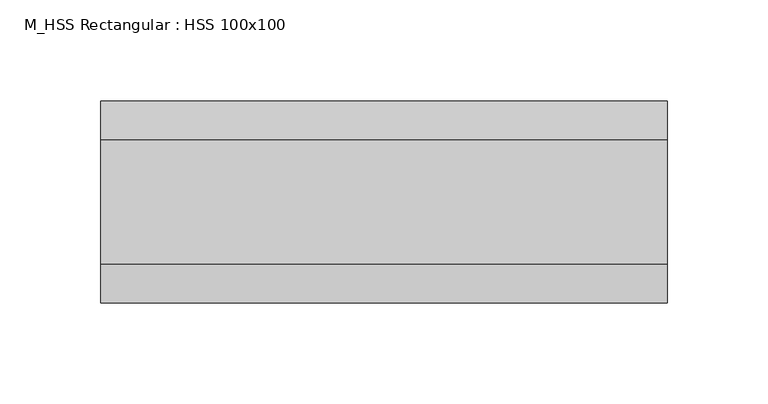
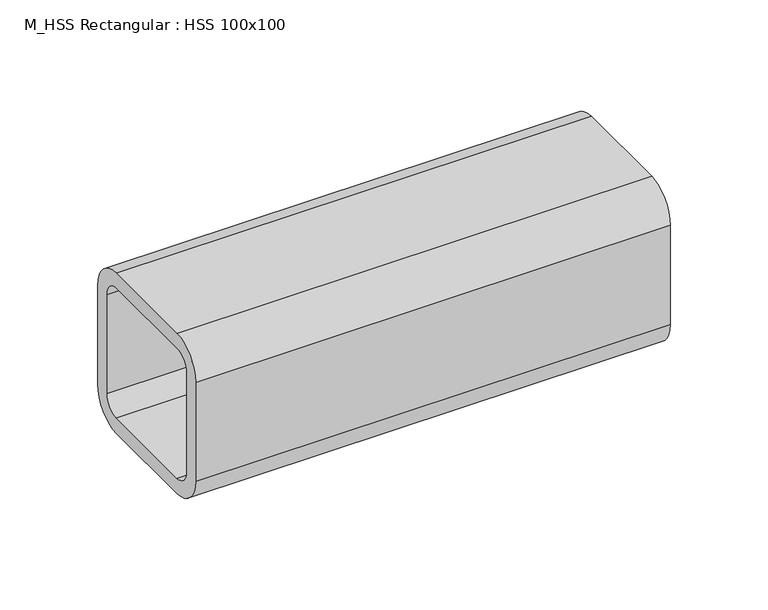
"""IFC4 building model written with IfcOpenShell, lengths in millimetres: beam geometry, M_HSS Rectangular : HSS 100x100."""

from ifc_helpers import new_model, si_unit, point, frame, frame_2d, origin, place, context, project, spatial, polyline, circle_curve, trimmed, segment, composite_curve, outline, extrude, source, transform, mapped, element, save


def m_hss_rectangular_hss_100x100_1dc630a9(model_context):
    return source(origin(), model_context, "Body", "SweptSolid", [
        extrude(outline(composite_curve([segment(polyline([(50.0, 30.94), (50.0, -30.94)]), True, "CONTINUOUS"), segment(trimmed(circle_curve(frame_2d((30.94, -30.94)), 19.06), [point((50.0, -30.94))], [point((30.94, -50.0))], False, "CARTESIAN"), True, "CONTINUOUS"), segment(polyline([(30.94, -50.0), (-30.94, -50.0)]), True, "CONTINUOUS"), segment(trimmed(circle_curve(frame_2d((-30.94, -30.94)), 19.06), [point((-30.94, -50.0))], [point((-50.0, -30.94))], False, "CARTESIAN"), True, "CONTINUOUS"), segment(polyline([(-50.0, -30.94), (-50.0, 30.94)]), True, "CONTINUOUS"), segment(trimmed(circle_curve(frame_2d((-30.94, 30.94)), 19.06), [point((-50.0, 30.94))], [point((-30.94, 50.0))], False, "CARTESIAN"), True, "CONTINUOUS"), segment(polyline([(-30.94, 50.0), (30.94, 50.0)]), True, "CONTINUOUS"), segment(trimmed(circle_curve(frame_2d((30.94, 30.94)), 19.06), [point((30.94, 50.0))], [point((50.0, 30.94))], False, "CARTESIAN"), True, "CONTINUOUS")], self_intersect=False), holes=[composite_curve([segment(trimmed(circle_curve(frame_2d((-30.94, 30.94)), 9.53), [point((-30.94, 40.47))], [point((-40.47, 30.94))], True, "CARTESIAN"), True, "CONTINUOUS"), segment(polyline([(-40.47, 30.94), (-40.47, -30.94)]), True, "CONTINUOUS"), segment(trimmed(circle_curve(frame_2d((-30.94, -30.94)), 9.53), [point((-40.47, -30.94))], [point((-30.94, -40.47))], True, "CARTESIAN"), True, "CONTINUOUS"), segment(polyline([(-30.94, -40.47), (30.94, -40.47)]), True, "CONTINUOUS"), segment(trimmed(circle_curve(frame_2d((30.94, -30.94)), 9.53), [point((30.94, -40.47))], [point((40.47, -30.94))], True, "CARTESIAN"), True, "CONTINUOUS"), segment(polyline([(40.47, -30.94), (40.47, 30.94)]), True, "CONTINUOUS"), segment(trimmed(circle_curve(frame_2d((30.94, 30.94)), 9.53), [point((40.47, 30.94))], [point((30.94, 40.47))], True, "CARTESIAN"), True, "CONTINUOUS"), segment(polyline([(30.94, 40.47), (-30.94, 40.47)]), True, "CONTINUOUS")], self_intersect=False)]), frame((-140.1, 0.0, 0.0), z_axis=(1.0, 0.0, 0.0), x_axis=(0.0, 1.0, 0.0)), (0.0, 0.0, 1.0), 280.2),
    ])


if __name__ == "__main__":
    model = new_model("IFC4")
    model_context = context("Model", 3, world=origin())
    ifc_project = project(units=[si_unit("LENGTHUNIT", "METRE", prefix="MILLI")], contexts=[model_context])
    site = spatial("IfcSite", under=ifc_project)
    building = spatial("IfcBuilding", under=site)
    placement = place(None, origin())
    m_hss_rectangular_hss_100x100_shape = m_hss_rectangular_hss_100x100_1dc630a9(model_context)
    element("IfcBeam", 1, ObjectType="M_HSS Rectangular : HSS 100x100", at=placement, inside=building, context=model_context, shape_type="MappedRepresentation", body=[
        mapped(m_hss_rectangular_hss_100x100_shape, transform((0.0, 0.0, 0.0), x_axis=(1.0, 0.0, 0.0), y_axis=(0.0, 1.0, 0.0), z_axis=(0.0, 0.0, 1.0))),
    ])
    save(model, "model.ifc")
